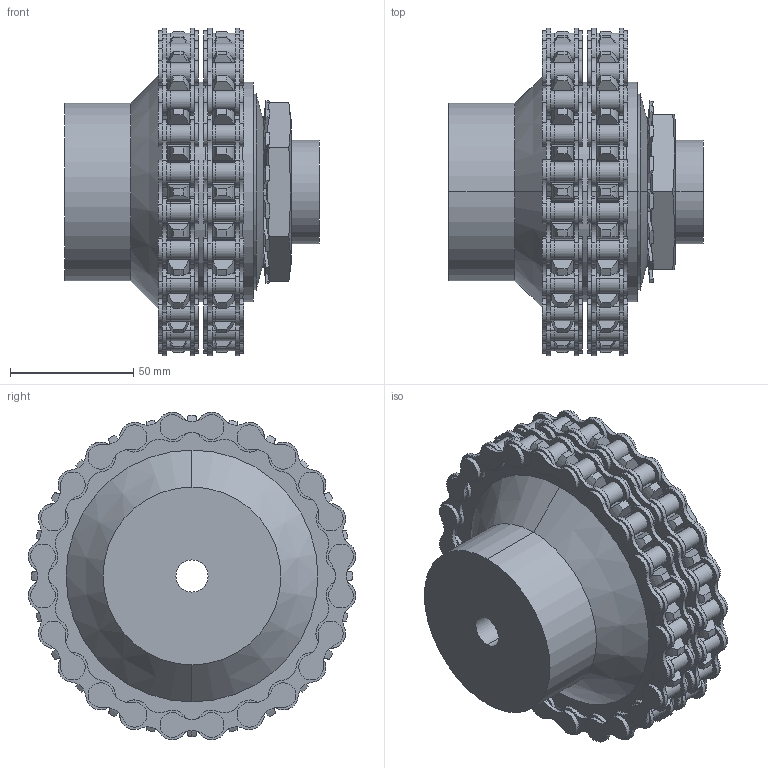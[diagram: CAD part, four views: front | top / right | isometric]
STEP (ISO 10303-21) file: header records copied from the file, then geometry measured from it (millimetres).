
FILE_DESCRIPTION (( 'STEP AP203' ), '1' );
FILE_NAME ('SS350-1C.STEP', '2009-09-30T17:55:24', ( 'USER' ), ( 'HOME' ), 'SwSTEP 2.0', 'SolidWorks 2007', '' );
FILE_SCHEMA (( 'CONFIG_CONTROL_DESIGN' ));
Length unit declared in the file: millimetre
Products named in the file (1): SS350-1C
Bounding box: 103 x 132.59 x 132.59 mm (x, y, z)
Volume: 691715.9 mm3; surface area: 258957.3 mm2
Topology: 91 solids, 91 shells, 2477 faces, 6215 edges, 4062 vertices
Faces by surface type: cylinder 1617, plane 748, torus 100, cone 12
Entity records: 77272 total; most frequent: CARTESIAN_POINT 14791, DIRECTION 14593, ORIENTED_EDGE 12430, AXIS2_PLACEMENT_3D 6296, EDGE_CURVE 6215, VERTEX_POINT 4062, CIRCLE 3818, EDGE_LOOP 2727
